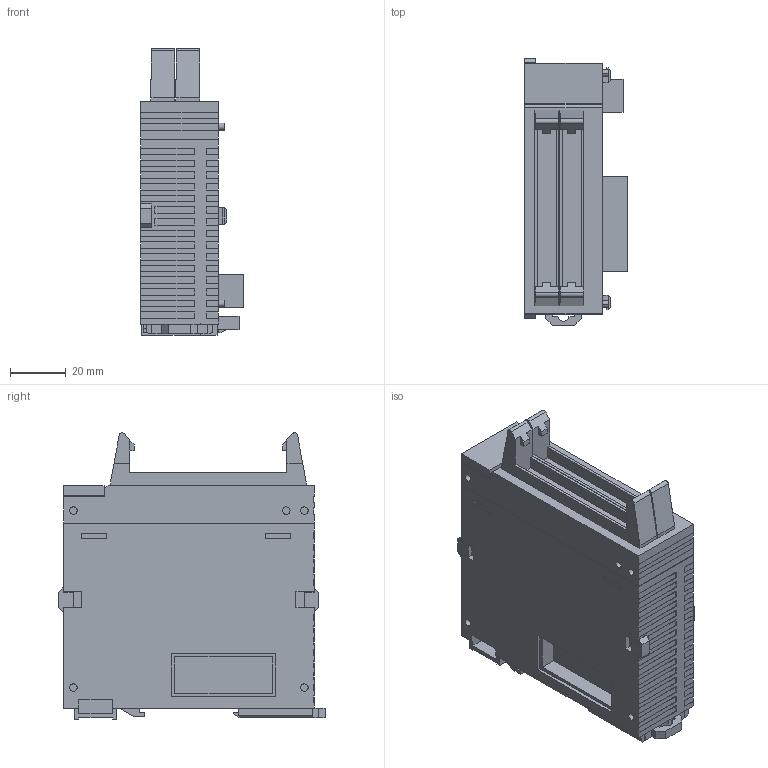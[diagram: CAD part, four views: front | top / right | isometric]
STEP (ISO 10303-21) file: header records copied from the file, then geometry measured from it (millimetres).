
FILE_DESCRIPTION (( 'STEP AP203' ), '1' );
FILE_NAME ('afp7x64d2.STEP', '2013-03-14T04:39:16', ( 'sunx' ), ( 'sunx' ), 'SwSTEP 2.0', 'SolidWorks 2010', '' );
FILE_SCHEMA (( 'CONFIG_CONTROL_DESIGN' ));
Length unit declared in the file: millimetre
Products named in the file (1): afp7x64d2
Bounding box: 37 x 95.75 x 103 mm (x, y, z)
Volume: 206862.3 mm3; surface area: 33942.5 mm2
Topology: 1 solids, 1 shells, 625 faces, 1764 edges, 1170 vertices
Faces by surface type: plane 597, cylinder 28
Entity records: 19895 total; most frequent: CARTESIAN_POINT 3560, ORIENTED_EDGE 3528, DIRECTION 3072, EDGE_CURVE 1764, VECTOR 1708, LINE 1708, VERTEX_POINT 1170, AXIS2_PLACEMENT_3D 682
